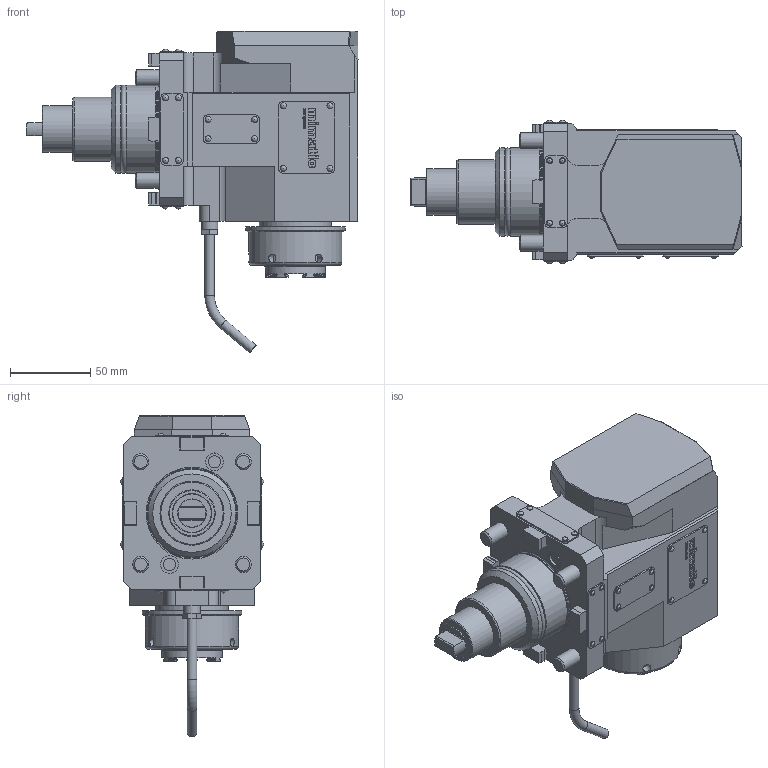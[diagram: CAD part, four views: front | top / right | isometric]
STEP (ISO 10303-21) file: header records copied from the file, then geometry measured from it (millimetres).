
FILE_DESCRIPTION(/* description */ (''),/* implementation_level */ '2;1');
FILE_NAME(/* name */ '188929',/* time_stamp */ '2020-09-07T09:41:46+02:00',/* author */ (''),/* organization */ (''),/* preprocessor_version */ 'ST-DEVELOPER v16.5',/* originating_system */ 'HiCAD 2017 2201.0 Build 268',/* authorisation */ '');
FILE_SCHEMA (('AUTOMOTIVE_DESIGN { 1 0 10303 214 1 1 1 1 }'));
Products named in the file (86): Root; Leeres Teil; 112963_Spannmutter ER32 HI_QERAXC_350*; 003_000X; ROTATIONSTEIL_0_103*; DIN 13-M15x1; DIN 76-M5; DIN 13-M40x1,5; DIN 76-M8; ROTATIONSTEIL_0_105*; 001_000X_102*; DIN 13-M20x1; 003_000X_104*; 00040064_101*; DIN 6912 - M 10 x 30 - 8.8_Zylinderkopfschraube DIN 6912 - M 10 x 30 
- 8.8_400*; GEWINDE; 114052_O-Ring 49x3_331*; BG_M10; TORUS_1_352*; 112384_Doppelkegelring D6_350*; 112485_Überwurfschraube_351*; Ê̤; 173501_Kantsealring 7.65x1.68_330*; 00011769_371*; 113692_Kerbnagel 2x4_380*; QUADER_0_370*; GRUPPE; TRANSLATIONSTEIL_0_372*; TRANSLATIONSTEIL_1_112*; TRANSLATIONSTEIL_1_113*
Assembly tree (85 placements, depth 7):
  Root
    Leeres Teil
      Leeres Teil
        Leeres Teil
          112963_Spannmutter ER32 HI_QERAXC_350*
            (unnamed)
            003_000X
        Leeres Teil
          ROTATIONSTEIL_0_103*
            DIN 13-M15x1
            DIN 76-M5
            DIN 13-M40x1,5
            DIN 76-M8
      Leeres Teil
        Leeres Teil
          ROTATIONSTEIL_0_105*
          001_000X_102*
            DIN 13-M20x1
      Leeres Teil
        Leeres Teil
          003_000X_104*
          00040064_101*
        Leeres Teil
          Leeres Teil
            DIN 6912 - M 10 x 30 - 8.8_Zylinderkopfschraube DIN 6912 - M 10 x 30 
- 8.8_400*
              GEWINDE
            DIN 6912 - M 10 x 30 - 8.8_Zylinderkopfschraube DIN 6912 - M 10 x 30 
- 8.8_400*
              GEWINDE
            DIN 6912 - M 10 x 30 - 8.8_Zylinderkopfschraube DIN 6912 - M 10 x 30 
- 8.8_400*
              GEWINDE
            DIN 6912 - M 10 x 30 - 8.8_Zylinderkopfschraube DIN 6912 - M 10 x 30 
- 8.8_400*
              GEWINDE
          Leeres Teil
            114052_O-Ring 49x3_331*
          BG_M10
            TORUS_1_352*
            112384_Doppelkegelring D6_350*
            112485_Überwurfschraube_351*
              Ê̤
          173501_Kantsealring 7.65x1.68_330*
          173501_Kantsealring 7.65x1.68_330*
          Leeres Teil
            00011769_371*
            113692_Kerbnagel 2x4_380*
            113692_Kerbnagel 2x4_380*
            113692_Kerbnagel 2x4_380*
            113692_Kerbnagel 2x4_380*
          Leeres Teil
            113692_Kerbnagel 2x4_380*
            113692_Kerbnagel 2x4_380*
            113692_Kerbnagel 2x4_380*
            113692_Kerbnagel 2x4_380*
            QUADER_0_370*
        GRUPPE
          Leeres Teil
            Leeres Teil
              113692_Kerbnagel 2x4_380*
              113692_Kerbnagel 2x4_380*
              113692_Kerbnagel 2x4_380*
              113692_Kerbnagel 2x4_380*
Bounding box: 207 x 89.6 x 200.37 mm (x, y, z)
Volume: 1151314.9 mm3; surface area: 162322.5 mm2
Topology: 58 solids, 58 shells, 1026 faces, 2590 edges, 1721 vertices
Faces by surface type: plane 678, cylinder 246, bspline 38, sphere 24, cone 20, torus 20
Full cylindrical faces by diameter (mm): 2 x24, 2.2 x8, 2.3 x16, 4 x2, 5.1 x6, 6 x3, 6.8 x1, 7.65 x2, 8 x2, 8.16 x8, 8.773 x2, 10 x5, 11.01 x2, 11.1 x2, 20 x1, 23.5 x1, 24 x1, 27 x2, 29 x2, 29.4 x1, 37.5 x1, 38 x1, 38.16 x2, 38.5 x1, 40 x4, 40.5 x1, 45 x2, 49.6 x1, 54.5 x1, 54.9 x2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
Entity records: 60637 total; most frequent: CARTESIAN_POINT 12377, DIRECTION 5044, PRESENTATION_STYLE_ASSIGNMENT 4710, ORIENTED_EDGE 4666, OVER_RIDING_STYLED_ITEM 4652, COLOUR_RGB 4652, DRAUGHTING_PRE_DEFINED_CURVE_FONT 4650, CURVE_STYLE 4650
